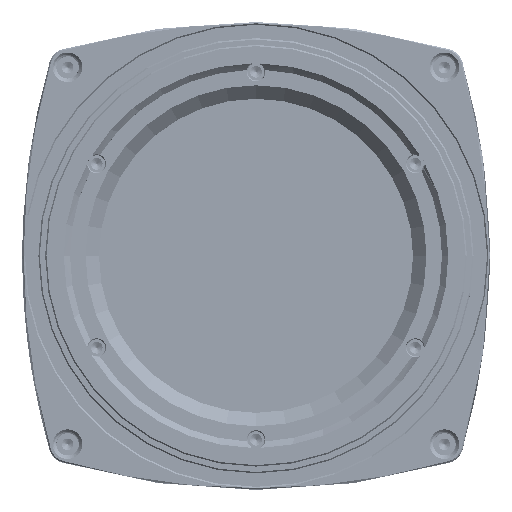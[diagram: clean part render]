
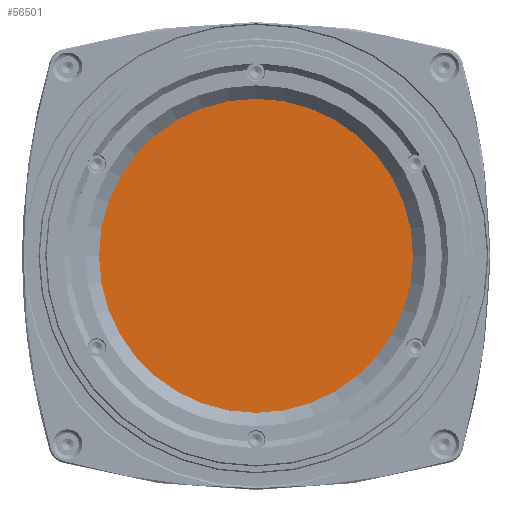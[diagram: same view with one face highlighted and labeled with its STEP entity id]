
A CAD part, top view. The second image highlights one B-rep face of the part: STEP entity #56501.
In plain terms, the highlighted planar face has unit normal (0, 0, 1).
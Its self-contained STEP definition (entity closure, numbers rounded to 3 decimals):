
#7363=FACE_OUTER_BOUND('',#76368,.T.);
#56501=ADVANCED_FACE('',(#7363),#66698,.F.);
#66698=PLANE('',#194576);
#76368=EDGE_LOOP('',(#89526));
#89526=ORIENTED_EDGE('',*,*,#161314,.F.);
#143134=VERTEX_POINT('',#296091);
#161314=EDGE_CURVE('',#143134,#143134,#188170,.T.);
#188170=CIRCLE('',#194573,17.5);
#194573=AXIS2_PLACEMENT_3D('',#296090,#211280,#211281);
#194576=AXIS2_PLACEMENT_3D('',#296094,#211286,#211287);
#211280=DIRECTION('',(0.,0.,-1.));
#211281=DIRECTION('',(1.,0.,0.));
#211286=DIRECTION('',(0.,0.,-1.));
#211287=DIRECTION('',(-1.,0.,0.));
#296090=CARTESIAN_POINT('',(0.,0.,1.));
#296091=CARTESIAN_POINT('',(17.5,0.,1.));
#296094=CARTESIAN_POINT('',(0.,0.,1.));
